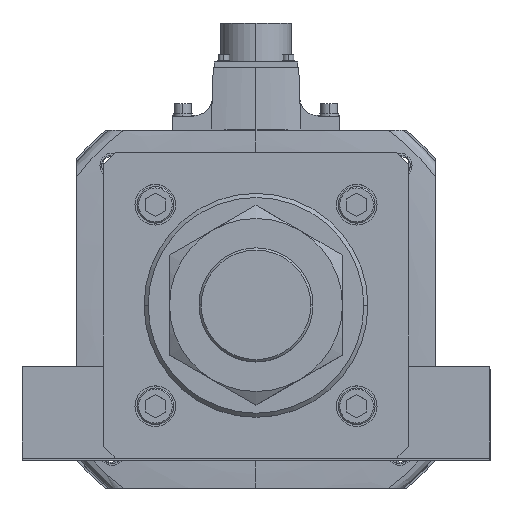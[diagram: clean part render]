
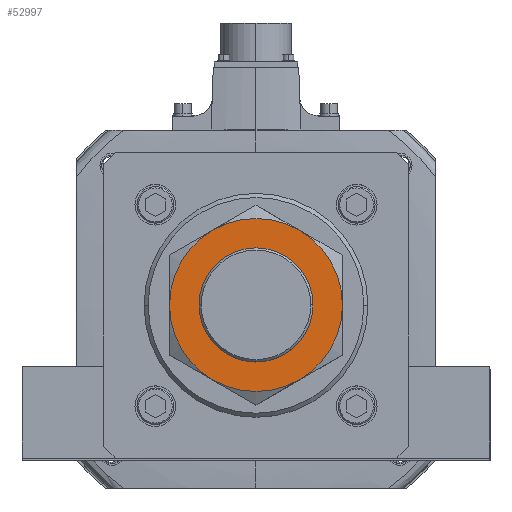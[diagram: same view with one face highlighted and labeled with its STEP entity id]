
A CAD part, top view. The second image highlights one B-rep face of the part: STEP entity #52997.
In plain terms, the highlighted planar face has unit normal (0, 0, 1).
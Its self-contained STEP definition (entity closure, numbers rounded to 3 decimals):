
#448 = FACE_OUTER_BOUND ( 'NONE', #8685, .T. ) ;
#1269 = VERTEX_POINT ( 'NONE', #25327 ) ;
#1503 = AXIS2_PLACEMENT_3D ( 'NONE', #7871, #3715, #24962 ) ;
#2450 = CIRCLE ( 'NONE', #1503, 42.5 ) ;
#2949 = EDGE_CURVE ( 'NONE', #37742, #21154, #24446, .T. ) ;
#3526 = CIRCLE ( 'NONE', #24597, 42.5 ) ;
#3715 = DIRECTION ( 'NONE',  ( 0., 0., -1. ) ) ;
#3897 = EDGE_LOOP ( 'NONE', ( #32130, #16025 ) ) ;
#3939 = CARTESIAN_POINT ( 'NONE',  ( 0., 0., 34. ) ) ;
#5111 = CARTESIAN_POINT ( 'NONE',  ( -42.5, 0., 34. ) ) ;
#7720 = DIRECTION ( 'NONE',  ( 0., 0., -1. ) ) ;
#7871 = CARTESIAN_POINT ( 'NONE',  ( 0., 0., 34. ) ) ;
#7932 = VERTEX_POINT ( 'NONE', #35077 ) ;
#7942 = DIRECTION ( 'NONE',  ( 0., 0., -1. ) ) ;
#8290 = AXIS2_PLACEMENT_3D ( 'NONE', #45900, #46831, #42895 ) ;
#8513 = CIRCLE ( 'NONE', #30187, 42.5 ) ;
#8685 = EDGE_LOOP ( 'NONE', ( #35406, #14406, #10633, #15912, #29361, #51583 ) ) ;
#10144 = PLANE ( 'NONE',  #51910 ) ;
#10235 = CIRCLE ( 'NONE', #43304, 42.5 ) ;
#10633 = ORIENTED_EDGE ( 'NONE', *, *, #2949, .F. ) ;
#14406 = ORIENTED_EDGE ( 'NONE', *, *, #46662, .F. ) ;
#15307 = CARTESIAN_POINT ( 'NONE',  ( 0., 0., 34. ) ) ;
#15832 = EDGE_CURVE ( 'NONE', #16058, #37742, #3526, .T. ) ;
#15912 = ORIENTED_EDGE ( 'NONE', *, *, #15832, .F. ) ;
#16025 = ORIENTED_EDGE ( 'NONE', *, *, #42275, .F. ) ;
#16058 = VERTEX_POINT ( 'NONE', #5111 ) ;
#17687 = AXIS2_PLACEMENT_3D ( 'NONE', #35416, #44671, #18946 ) ;
#18946 = DIRECTION ( 'NONE',  ( 1., 0., 0. ) ) ;
#19223 = FACE_BOUND ( 'NONE', #3897, .T. ) ;
#19414 = EDGE_CURVE ( 'NONE', #7932, #1269, #27431, .T. ) ;
#19625 = DIRECTION ( 'NONE',  ( 0., 0., -1. ) ) ;
#20248 = DIRECTION ( 'NONE',  ( 0., 0., 1. ) ) ;
#20273 = EDGE_CURVE ( 'NONE', #52181, #24898, #8513, .T. ) ;
#21154 = VERTEX_POINT ( 'NONE', #44708 ) ;
#23989 = DIRECTION ( 'NONE',  ( 0., 0., -1. ) ) ;
#24446 = CIRCLE ( 'NONE', #8290, 42.5 ) ;
#24597 = AXIS2_PLACEMENT_3D ( 'NONE', #25206, #7942, #42103 ) ;
#24898 = VERTEX_POINT ( 'NONE', #45249 ) ;
#24962 = DIRECTION ( 'NONE',  ( 1., 0., 0. ) ) ;
#25206 = CARTESIAN_POINT ( 'NONE',  ( 0., 0., 34. ) ) ;
#25327 = CARTESIAN_POINT ( 'NONE',  ( 28., 0., 34. ) ) ;
#27431 = CIRCLE ( 'NONE', #55662, 28. ) ;
#27932 = CARTESIAN_POINT ( 'NONE',  ( 0., 0., 34. ) ) ;
#29361 = ORIENTED_EDGE ( 'NONE', *, *, #41869, .F. ) ;
#30187 = AXIS2_PLACEMENT_3D ( 'NONE', #32953, #23989, #41237 ) ;
#31138 = AXIS2_PLACEMENT_3D ( 'NONE', #15307, #19625, #49640 ) ;
#32130 = ORIENTED_EDGE ( 'NONE', *, *, #19414, .F. ) ;
#32774 = DIRECTION ( 'NONE',  ( 1., 0., 0. ) ) ;
#32953 = CARTESIAN_POINT ( 'NONE',  ( 0., 0., 34. ) ) ;
#33453 = EDGE_CURVE ( 'NONE', #24898, #35528, #10235, .T. ) ;
#33978 = CARTESIAN_POINT ( 'NONE',  ( -21.25, 36.806, 34. ) ) ;
#35077 = CARTESIAN_POINT ( 'NONE',  ( -28., 0., 34. ) ) ;
#35406 = ORIENTED_EDGE ( 'NONE', *, *, #20273, .F. ) ;
#35416 = CARTESIAN_POINT ( 'NONE',  ( 0., 0., 34. ) ) ;
#35528 = VERTEX_POINT ( 'NONE', #39715 ) ;
#35971 = CIRCLE ( 'NONE', #17687, 28. ) ;
#36359 = CIRCLE ( 'NONE', #31138, 42.5 ) ;
#37742 = VERTEX_POINT ( 'NONE', #33978 ) ;
#39715 = CARTESIAN_POINT ( 'NONE',  ( -21.25, -36.806, 34. ) ) ;
#41237 = DIRECTION ( 'NONE',  ( 1., 0., 0. ) ) ;
#41869 = EDGE_CURVE ( 'NONE', #35528, #16058, #2450, .T. ) ;
#42103 = DIRECTION ( 'NONE',  ( -1., 0., 0. ) ) ;
#42275 = EDGE_CURVE ( 'NONE', #1269, #7932, #35971, .T. ) ;
#42642 = DIRECTION ( 'NONE',  ( 0., 0., 1. ) ) ;
#42895 = DIRECTION ( 'NONE',  ( 1., 0., 0. ) ) ;
#43304 = AXIS2_PLACEMENT_3D ( 'NONE', #3939, #7720, #51025 ) ;
#44671 = DIRECTION ( 'NONE',  ( 0., 0., 1. ) ) ;
#44708 = CARTESIAN_POINT ( 'NONE',  ( 21.25, 36.806, 34. ) ) ;
#45249 = CARTESIAN_POINT ( 'NONE',  ( 21.25, -36.806, 34. ) ) ;
#45900 = CARTESIAN_POINT ( 'NONE',  ( 0., 0., 34. ) ) ;
#46662 = EDGE_CURVE ( 'NONE', #21154, #52181, #36359, .T. ) ;
#46831 = DIRECTION ( 'NONE',  ( 0., 0., -1. ) ) ;
#46958 = DIRECTION ( 'NONE',  ( 1., 0., 0. ) ) ;
#49640 = DIRECTION ( 'NONE',  ( 1., 0., 0. ) ) ;
#51025 = DIRECTION ( 'NONE',  ( 1., 0., 0. ) ) ;
#51583 = ORIENTED_EDGE ( 'NONE', *, *, #33453, .F. ) ;
#51672 = CARTESIAN_POINT ( 'NONE',  ( 42.5, 0., 34. ) ) ;
#51910 = AXIS2_PLACEMENT_3D ( 'NONE', #27932, #20248, #32774 ) ;
#52181 = VERTEX_POINT ( 'NONE', #51672 ) ;
#52997 = ADVANCED_FACE ( 'NONE', ( #448, #19223 ), #10144, .T. ) ;
#55569 = CARTESIAN_POINT ( 'NONE',  ( 0., 0., 34. ) ) ;
#55662 = AXIS2_PLACEMENT_3D ( 'NONE', #55569, #42642, #46958 ) ;
